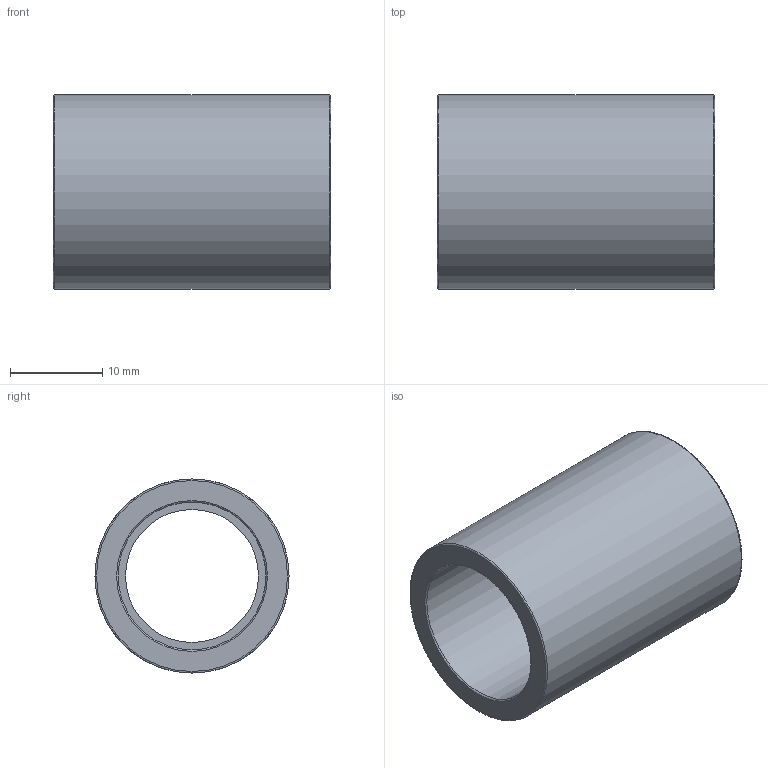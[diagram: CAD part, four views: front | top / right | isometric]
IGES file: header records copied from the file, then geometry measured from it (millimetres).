
Global section: file name: 050100016.ipt; native system: Autodesk Inventor 2015; preprocessor: unknown; author: KIM; date: 20171207.163959; units: millimetre
Bounding box: 30 x 21 x 21 mm (x, y, z)
Volume: 4434.1 mm3; surface area: 3828.2 mm2
Topology: 1 solids, 1 shells, 12 faces, 34 edges, 26 vertices
Faces by surface type: revolution 7, plane 4, cylinder 1
Full cylindrical faces by diameter (mm): 21 x1
